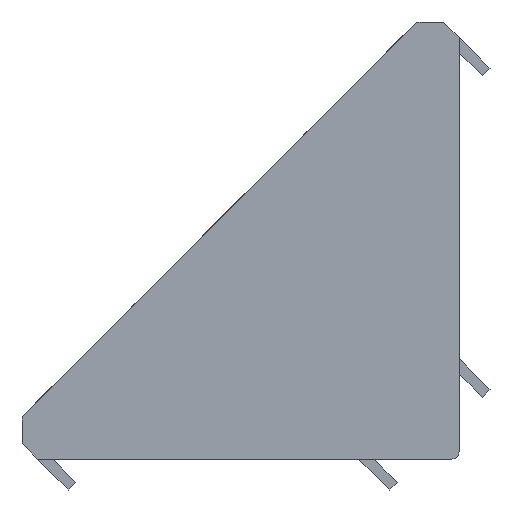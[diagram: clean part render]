
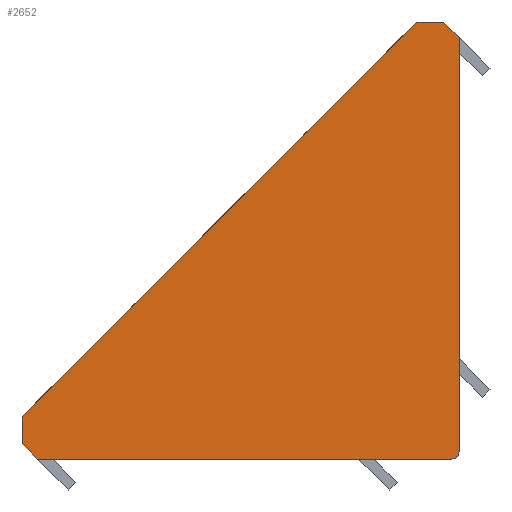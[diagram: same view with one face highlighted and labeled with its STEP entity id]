
A CAD part, left-side view. The second image highlights one B-rep face of the part: STEP entity #2652.
In plain terms, the highlighted planar face has unit normal (-1, 0, 0).
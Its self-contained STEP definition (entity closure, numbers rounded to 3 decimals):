
#67=PLANE($,#2826);
#196=FACE_OUTER_BOUND($,#366,.T.);
#366=EDGE_LOOP($,(#2145,#2146,#2147,#2148,#2149,#2150,#2151,#2152,#2153,
#2154));
#479=LINE($,#3654,#827);
#506=LINE($,#3717,#854);
#578=LINE($,#3905,#926);
#624=LINE($,#3996,#972);
#670=LINE($,#4086,#1018);
#672=LINE($,#4090,#1020);
#678=LINE($,#4107,#1026);
#827=VECTOR($,#2953,3.107);
#854=VECTOR($,#2994,71.992);
#926=VECTOR($,#3148,2.81);
#972=VECTOR($,#3196,54.013);
#1018=VECTOR($,#3244,54.013);
#1020=VECTOR($,#3248,2.81);
#1026=VECTOR($,#3270,3.107);
#1174=CIRCLE($,#2768,1.);
#1203=CIRCLE($,#2827,1.);
#1204=CIRCLE($,#2828,1.);
#1209=VERTEX_POINT($,#3646);
#1210=VERTEX_POINT($,#3648);
#1211=VERTEX_POINT($,#3652);
#1212=VERTEX_POINT($,#3653);
#1240=VERTEX_POINT($,#3715);
#1241=VERTEX_POINT($,#3716);
#1316=VERTEX_POINT($,#3904);
#1360=VERTEX_POINT($,#3995);
#1404=VERTEX_POINT($,#4089);
#1407=VERTEX_POINT($,#4105);
#1461=EDGE_CURVE($,#1209,#1210,#1174,.T.);
#1463=EDGE_CURVE($,#1211,#1212,#479,.T.);
#1494=EDGE_CURVE($,#1240,#1241,#506,.T.);
#1588=EDGE_CURVE($,#1212,#1316,#578,.T.);
#1634=EDGE_CURVE($,#1210,#1360,#624,.T.);
#1680=EDGE_CURVE($,#1316,#1209,#670,.T.);
#1682=EDGE_CURVE($,#1360,#1404,#672,.T.);
#1690=EDGE_CURVE($,#1241,#1211,#1203,.T.);
#1691=EDGE_CURVE($,#1407,#1240,#1204,.T.);
#1692=EDGE_CURVE($,#1404,#1407,#678,.T.);
#2145=ORIENTED_EDGE($,*,*,#1463,.F.);
#2146=ORIENTED_EDGE($,*,*,#1690,.F.);
#2147=ORIENTED_EDGE($,*,*,#1494,.F.);
#2148=ORIENTED_EDGE($,*,*,#1691,.F.);
#2149=ORIENTED_EDGE($,*,*,#1692,.F.);
#2150=ORIENTED_EDGE($,*,*,#1682,.F.);
#2151=ORIENTED_EDGE($,*,*,#1634,.F.);
#2152=ORIENTED_EDGE($,*,*,#1461,.F.);
#2153=ORIENTED_EDGE($,*,*,#1680,.F.);
#2154=ORIENTED_EDGE($,*,*,#1588,.F.);
#2652=ADVANCED_FACE($,(#196),#67,.F.);
#2768=AXIS2_PLACEMENT_3D($,#3649,#2948,#2949);
#2826=AXIS2_PLACEMENT_3D($,#4103,#3264,#3265);
#2827=AXIS2_PLACEMENT_3D($,#4104,#3266,#3267);
#2828=AXIS2_PLACEMENT_3D($,#4106,#3268,#3269);
#2948=DIRECTION('center_axis',(1.,0.,0.));
#2949=DIRECTION('ref_axis',(0.,0.,-1.));
#2953=DIRECTION($,(0.,-1.,0.));
#2994=DIRECTION($,(0.,-0.707,0.707));
#3148=DIRECTION($,(0.,-0.707,-0.707));
#3196=DIRECTION($,(0.,1.,0.));
#3244=DIRECTION($,(0.,0.,-1.));
#3248=DIRECTION($,(0.,0.707,0.707));
#3264=DIRECTION('center_axis',(1.,0.,0.));
#3265=DIRECTION('ref_axis',(0.,0.,-1.));
#3266=DIRECTION('center_axis',(1.,0.,0.));
#3267=DIRECTION('ref_axis',(0.,0.,-1.));
#3268=DIRECTION('center_axis',(1.,0.,0.));
#3269=DIRECTION('ref_axis',(0.,0.,-1.));
#3270=DIRECTION($,(0.,0.,1.));
#3646=CARTESIAN_POINT('',(-29.,0.,1.));
#3648=CARTESIAN_POINT('',(-29.,1.,0.));
#3649=CARTESIAN_POINT('Origin',(-29.,1.,1.));
#3652=CARTESIAN_POINT('',(-29.,5.094,57.));
#3653=CARTESIAN_POINT('',(-29.,1.987,57.));
#3654=CARTESIAN_POINT($,(-29.,5.094,57.));
#3715=CARTESIAN_POINT('',(-29.,56.707,5.801));
#3716=CARTESIAN_POINT('',(-29.,5.801,56.707));
#3717=CARTESIAN_POINT($,(-29.,56.707,5.801));
#3904=CARTESIAN_POINT('',(-29.,0.,55.013));
#3905=CARTESIAN_POINT($,(-29.,1.987,57.));
#3995=CARTESIAN_POINT('',(-29.,55.013,0.));
#3996=CARTESIAN_POINT($,(-29.,1.,0.));
#4086=CARTESIAN_POINT($,(-29.,0.,55.013));
#4089=CARTESIAN_POINT('',(-29.,57.,1.987));
#4090=CARTESIAN_POINT($,(-29.,55.013,0.));
#4103=CARTESIAN_POINT('Origin',(-29.,1.,1.));
#4104=CARTESIAN_POINT('Origin',(-29.,5.094,56.));
#4105=CARTESIAN_POINT('',(-29.,57.,5.094));
#4106=CARTESIAN_POINT('Origin',(-29.,56.,5.094));
#4107=CARTESIAN_POINT($,(-29.,57.,1.987));
